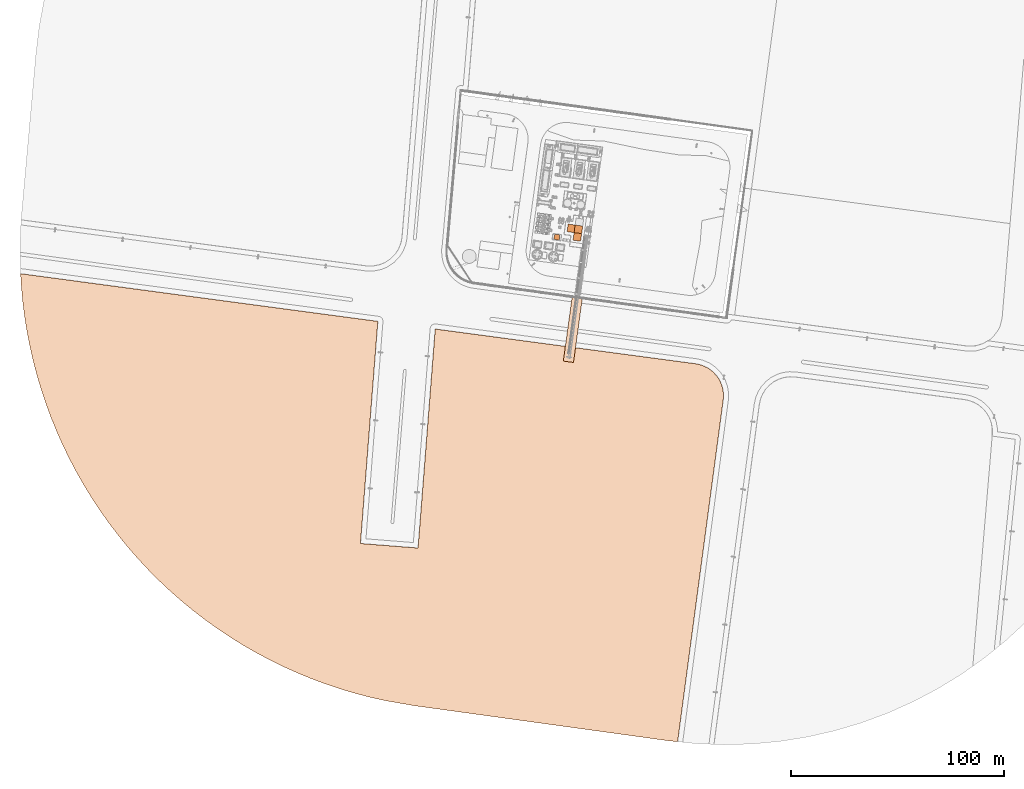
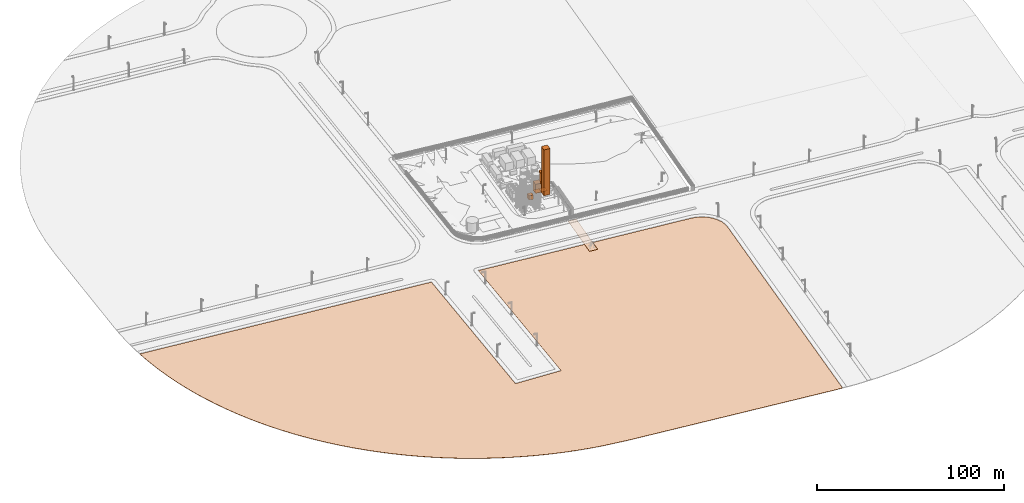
# Not in any storey, part 64 of 75: 6 proxies, 2 geographic elements.
"""IFC4 model written with IfcOpenShell, lengths in metres."""

from ifc_helpers import new_model, si_unit, direction, origin, origin_with_axes, place, context, subcontext, project, spatial, triangles, element, save


model = new_model("IFC4")

# Units and contexts
model_context = context("Model", 3, precision=1e-05, world=origin_with_axes(), true_north=direction((0.0, 1.0)))
body_context = subcontext(model_context, "Body", "Model", "MODEL_VIEW")
ifc_project = project(units=[si_unit("AREAUNIT", "SQUARE_METRE"), si_unit("VOLUMEUNIT", "CUBIC_METRE"), si_unit("LENGTHUNIT", "METRE")], contexts=[model_context])

# Site
site_placement = place(None, origin_with_axes())
site = spatial("IfcSite", under=ifc_project, at=site_placement, Name="Parcela industrial Jinhong")

# Proxies
proxy_1_placement = place(site_placement, origin_with_axes())
element("IfcBuildingElementProxy", 1, at=proxy_1_placement, inside=site, Name="Caseta de analizadores ANALYSIS-CABIN", ObjectType="Envolvente de equipo", PredefinedType="USERDEFINED", context=body_context, shape_type="Tessellation", body=[
    triangles([(44.160521, 39.569624, 1.3000000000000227), (46.977733, 41.705817, 1.3000000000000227), (46.637223, 39.229115, 1.3000000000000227), (44.501031, 42.046326, 1.3000000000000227), (44.160521, 39.569624, 4.100000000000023), (46.637223, 39.229115, 4.100000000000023), (46.977733, 41.705817, 4.100000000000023), (44.501031, 42.046326, 4.100000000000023)], [[1, 2, 3], [1, 4, 2], [7, 5, 6], [7, 8, 5], [1, 3, 6], [6, 5, 1], [3, 2, 7], [3, 7, 6], [2, 4, 8], [8, 7, 2], [4, 1, 5], [5, 8, 4]], closed=True),
])
proxy_2_placement = place(site_placement, origin_with_axes())
element("IfcBuildingElementProxy", 2, at=proxy_2_placement, inside=site, Name="Caja fría de la columna principal · aproximadamente 30 m, pendiente de confirmar", ObjectType="Envolvente conceptual de caja fría", PredefinedType="USERDEFINED", context=body_context, shape_type="Tessellation", body=[
    triangles([(53.149521, 39.206904, 1.2000000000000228), (57.19504, 42.274478, 1.2000000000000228), (56.706067, 38.717931, 1.2000000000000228), (53.638494, 42.763451, 1.2000000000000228), (53.149521, 39.206904, 31.200000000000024), (56.706067, 38.717931, 31.200000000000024), (57.19504, 42.274478, 31.200000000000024), (53.638494, 42.763451, 31.200000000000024)], [[1, 2, 3], [1, 4, 2], [7, 5, 6], [7, 8, 5], [1, 3, 6], [6, 5, 1], [3, 2, 7], [3, 7, 6], [2, 4, 8], [8, 7, 2], [4, 1, 5], [5, 8, 4]], closed=True),
])
proxy_3_placement = place(site_placement, origin_with_axes())
element("IfcBuildingElementProxy", 3, at=proxy_3_placement, inside=site, Name="Caja fría del intercambiador principal · solo ámbito en planta; altura desconocida", ObjectType="Marcador de equipo en planta", PredefinedType="USERDEFINED", context=body_context, shape_type="Tessellation", body=[
    triangles([(53.638494, 42.763451, 1.2000000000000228), (57.684941, 45.830895, 1.2000000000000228), (57.195969, 42.274351, 1.2000000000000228), (54.127466, 46.319995, 1.2000000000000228), (53.638494, 42.763451, 1.3000000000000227), (57.195969, 42.274351, 1.3000000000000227), (57.684941, 45.830895, 1.3000000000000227), (54.127466, 46.319995, 1.3000000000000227)], [[1, 2, 3], [1, 4, 2], [7, 5, 6], [7, 8, 5], [1, 3, 6], [5, 1, 6], [2, 7, 3], [3, 7, 6], [2, 4, 8], [7, 2, 8], [1, 5, 4], [5, 8, 4]], closed=True),
])
proxy_4_placement = place(site_placement, origin_with_axes())
element("IfcBuildingElementProxy", 4, at=proxy_4_placement, inside=site, Name="Caja fría del expansor oeste · solo ámbito en planta; altura desconocida", ObjectType="Marcador de equipo en planta", PredefinedType="USERDEFINED", context=body_context, shape_type="Tessellation", body=[
    triangles([(50.369247, 43.212924, 1.2000000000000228), (54.127466, 46.319995, 1.2000000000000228), (53.638494, 42.763451, 1.2000000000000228), (50.858219, 46.769468, 1.2000000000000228), (50.369247, 43.212924, 1.3000000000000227), (53.638494, 42.763451, 1.3000000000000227), (54.127466, 46.319995, 1.3000000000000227), (50.858219, 46.769468, 1.3000000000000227)], [[1, 2, 3], [1, 4, 2], [7, 5, 6], [7, 8, 5], [1, 3, 6], [5, 1, 6], [2, 7, 3], [3, 7, 6], [2, 4, 8], [7, 2, 8], [1, 5, 4], [5, 8, 4]], closed=True),
])
proxy_5_placement = place(None, origin())
element("IfcBuildingElementProxy", 5, at=proxy_5_placement, inside=site, Name="Ámbito del intercambiador principal · volumen provisional", context=body_context, shape_type="Tessellation", body=[
    triangles([(53.638494, 42.763451, 1.2), (57.684941, 45.830895, 1.2), (57.195969, 42.274351, 1.2), (54.127466, 46.319995, 1.2), (57.684941, 45.830895, 13.2), (53.638494, 42.763451, 13.2), (57.195969, 42.274351, 13.2), (54.127466, 46.319995, 13.2)], [[1, 2, 3], [1, 4, 2], [5, 6, 7], [6, 5, 8], [1, 3, 7], [6, 1, 7], [2, 5, 3], [5, 7, 3], [2, 4, 8], [5, 2, 8], [1, 6, 4], [4, 6, 8]], closed=True),
])
proxy_6_placement = place(None, origin())
element("IfcBuildingElementProxy", 6, at=proxy_6_placement, inside=site, Name="Ámbito del expansor oeste · volumen provisional", context=body_context, shape_type="Tessellation", body=[
    triangles([(50.369247, 43.212924, 1.2), (54.127466, 46.319995, 1.2), (53.638494, 42.763451, 1.2), (50.858219, 46.769468, 1.2), (54.127466, 46.319995, 7.2), (50.369247, 43.212924, 7.2), (53.638494, 42.763451, 7.2), (50.858219, 46.769468, 7.2)], [[1, 2, 3], [1, 4, 2], [5, 6, 7], [6, 5, 8], [1, 3, 7], [6, 1, 7], [2, 5, 3], [5, 7, 3], [2, 4, 8], [5, 2, 8], [1, 6, 4], [4, 6, 8]], closed=True),
])

# Geographic elements
geographic_element_1_placement = place(None, origin())
element("IfcGeographicElement", 7, at=geographic_element_1_placement, inside=site, Name="Suelo exterior · referencia provisional", ObjectType="Suelo exterior · referencia provisional", PredefinedType="USERDEFINED", context=body_context, shape_type="Tessellation", body=[
    triangles([(52.735666, 12.556918, 0.881832), (52.735666, 12.556918, 1.001832), (57.490934, 11.90314, 0.934164), (57.490934, 11.90314, 1.054164), (48.608301, -17.463529, 0.754793), (48.608301, -17.463529, 0.874793), (53.363569, -18.117308, 0.807125), (53.363569, -18.117308, 0.927125)], [[2, 4, 1], [5, 2, 1], [1, 4, 3], [3, 5, 1], [2, 8, 4], [6, 2, 5], [6, 8, 2], [4, 8, 3], [7, 5, 3], [3, 8, 7], [7, 6, 5], [8, 6, 7]], closed=True),
])
geographic_element_2_placement = place(None, origin())
element("IfcGeographicElement", 8, at=geographic_element_2_placement, inside=site, Name="Parcela catastral próxima · 9211601QD2091S", ObjectType="Parcela catastral próxima · 9211601QD2091S", PredefinedType="USERDEFINED", context=body_context, shape_type="Tessellation", body=[
    triangles([(-19.545183, -105.10472, -0.21409), (-35.445254, -176.545945, -0.585528), (-42.856508, -174.846703, -0.665274), (-46.467498, -102.994351, -0.514617), (-49.726157, -173.022185, -0.738526), (-56.059255, -171.121912, -0.805475), (-63.265821, -168.697139, -0.880958), (-69.921038, -166.201337, -0.949981), (-76.034841, -163.683283, -1.012787), (-46.508571, -102.94122, -0.514942), (-89.341247, -157.414261, -1.147379), (-95.175656, -154.303177, -1.205426), (-101.337632, -150.760439, -1.266046), (-113.701203, -142.791551, -1.385381), (-119.074434, -138.938297, -1.436203), (-124.715452, -134.613964, -1.488813), (-130.210444, -130.105527, -1.539272), (-135.920274, -125.084376, -1.590806), (-140.738489, -120.556244, -1.633516), (-145.760036, -115.525836, -1.677198), (-155.290743, -104.980971, -1.757444), (-160.09647, -99.088679, -1.796372), (-164.397812, -93.430111, -1.830188), (-38.350761, 1.141181, -0.144454), (-172.160886, -82.119882, -1.88829), (-175.894719, -76.071789, -1.914613), (-179.665315, -69.469007, -1.939874), (-182.976864, -63.179764, -1.960751), (-185.869216, -57.233885, -1.977777), (-188.967455, -50.290181, -1.994483), (-191.63995, -43.703929, -2.0073), (-196.176332, -30.757584, -2.024343), (-198.199224, -23.943713, -2.029166), (-200.112593, -16.584831, -2.031289), (-201.664842, -9.648589, -2.030434), (-202.986961, -2.664826, -2.026834), (-204.077504, 4.358824, -2.020495), (-204.883019, 10.921622, -2.012144), (-205.523416, 18.000522, -2.000538), (-205.839326, 23.488931, -1.989486), (-19.49471, -105.073081, -0.213432), (-11.448985, -2.448283, 0.151893), (110.717948, -18.748835, 1.497668), (113.254332, -19.308137, 1.525019), (116.11786, -20.560515, 1.554241), (123.649542, -32.413463, 1.608264), (120.679774, -24.560761, 1.595445), (122.137624, -26.919514, 1.60573), (123.232696, -29.87051, 1.610309), (123.569516, -35.560303, 1.598957), (102.171666, -195.916446, 0.927752), (97.784986, -195.456572, 0.879094), (-82.96588, -160.556814, -1.083264), (-107.795888, -146.74733, -1.328781), (-150.612555, -110.332186, -1.718522), (-168.509755, -87.632451, -1.861479), (-194.093271, -37.032935, -2.017399), (118.5303, -22.263174, 1.577132), (-21.328239, -179.013098, -0.431574), (-19.545183, -105.10472, -0.13409), (-35.445254, -176.545945, -0.505528), (-42.856508, -174.846703, -0.585274), (-46.467498, -102.994351, -0.434617), (-49.726157, -173.022185, -0.658526), (-56.059255, -171.121912, -0.725475), (-63.265821, -168.697139, -0.800958), (-69.921038, -166.201337, -0.869981), (-76.034841, -163.683283, -0.932787), (-46.508571, -102.94122, -0.434942), (-89.341247, -157.414261, -1.067379), (-95.175656, -154.303177, -1.125426), (-101.337632, -150.760439, -1.186046), (-113.701203, -142.791551, -1.305381), (-119.074434, -138.938297, -1.356203), (-124.715452, -134.613964, -1.408813), (-130.210444, -130.105527, -1.459272), (-135.920274, -125.084376, -1.510806), (-140.738489, -120.556244, -1.553516), (-145.760036, -115.525836, -1.597198), (-155.290743, -104.980971, -1.677444), (-160.09647, -99.088679, -1.716372), (-164.397812, -93.430111, -1.750188), (-38.350761, 1.141181, -0.064454), (-172.160886, -82.119882, -1.80829), (-175.894719, -76.071789, -1.834613), (-179.665315, -69.469007, -1.859874), (-182.976864, -63.179764, -1.880751), (-185.869216, -57.233885, -1.897777), (-188.967455, -50.290181, -1.914483), (-191.63995, -43.703929, -1.9273), (-196.176332, -30.757584, -1.944343), (-198.199224, -23.943713, -1.949166), (-200.112593, -16.584831, -1.951289), (-201.664842, -9.648589, -1.950434), (-202.986961, -2.664826, -1.946834), (-204.077504, 4.358824, -1.940495), (-204.883019, 10.921622, -1.932144), (-205.523416, 18.000522, -1.920538), (-205.839326, 23.488931, -1.909486), (-19.49471, -105.073081, -0.133432), (-11.448985, -2.448283, 0.231893), (110.717948, -18.748835, 1.577668), (113.254332, -19.308137, 1.605019), (116.11786, -20.560515, 1.634241), (123.649542, -32.413463, 1.688264), (120.679774, -24.560761, 1.675445), (122.137624, -26.919514, 1.68573), (123.232696, -29.87051, 1.690309), (123.569516, -35.560303, 1.678957), (102.171666, -195.916446, 1.007752), (97.784986, -195.456572, 0.959094), (-82.96588, -160.556814, -1.003264), (-107.795888, -146.74733, -1.248781), (-150.612555, -110.332186, -1.638522), (-168.509755, -87.632451, -1.781479), (-194.093271, -37.032935, -1.937399), (118.5303, -22.263174, 1.657132), (-21.328239, -179.013098, -0.351574)], [[1, 2, 3], [4, 3, 5], [4, 6, 7], [4, 8, 9], [10, 11, 12], [10, 12, 13], [10, 14, 15], [10, 15, 16], [10, 17, 18], [10, 19, 20], [10, 21, 22], [10, 22, 23], [24, 25, 26], [24, 26, 27], [24, 28, 29], [24, 30, 31], [24, 32, 33], [24, 33, 34], [24, 35, 36], [24, 37, 38], [24, 39, 40], [23, 24, 10], [41, 42, 43], [43, 44, 45], [46, 47, 48], [46, 48, 49], [43, 46, 50], [50, 51, 52], [4, 5, 6], [4, 7, 8], [4, 53, 11], [10, 54, 14], [10, 20, 55], [10, 55, 21], [24, 56, 25], [24, 29, 30], [24, 57, 32], [24, 36, 37], [24, 38, 39], [58, 43, 45], [47, 46, 58], [41, 50, 52], [4, 9, 53], [10, 13, 54], [24, 23, 56], [24, 27, 28], [35, 24, 34], [3, 4, 1], [50, 41, 43], [43, 58, 46], [10, 16, 17], [10, 18, 19], [24, 31, 57], [59, 41, 52], [11, 10, 4], [41, 59, 1], [2, 1, 59], [62, 61, 60], [64, 62, 63], [66, 65, 63], [68, 67, 63], [71, 70, 69], [72, 71, 69], [74, 73, 69], [75, 74, 69], [77, 76, 69], [79, 78, 69], [81, 80, 69], [82, 81, 69], [85, 84, 83], [86, 85, 83], [88, 87, 83], [90, 89, 83], [92, 91, 83], [93, 92, 83], [95, 94, 83], [97, 96, 83], [99, 98, 83], [69, 83, 82], [102, 101, 100], [104, 103, 102], [107, 106, 105], [108, 107, 105], [109, 105, 102], [111, 110, 109], [65, 64, 63], [67, 66, 63], [70, 112, 63], [73, 113, 69], [114, 79, 69], [80, 114, 69], [84, 115, 83], [89, 88, 83], [91, 116, 83], [96, 95, 83], [98, 97, 83], [104, 102, 117], [117, 105, 106], [111, 109, 100], [112, 68, 63], [113, 72, 69], [115, 82, 83], [87, 86, 83], [93, 83, 94], [60, 63, 62], [102, 100, 109], [105, 117, 102], [76, 75, 69], [78, 77, 69], [116, 90, 83], [111, 100, 118], [63, 69, 70], [60, 118, 100], [118, 60, 61], [61, 62, 2], [2, 62, 3], [63, 60, 4], [4, 60, 1], [62, 64, 3], [3, 64, 5], [64, 65, 5], [5, 65, 6], [65, 66, 6], [6, 66, 7], [66, 67, 7], [7, 67, 8], [67, 68, 8], [8, 68, 9], [69, 63, 10], [10, 63, 4], [70, 71, 11], [11, 71, 12], [71, 72, 12], [12, 72, 13], [73, 74, 14], [14, 74, 15], [74, 75, 15], [15, 75, 16], [75, 76, 16], [16, 76, 17], [76, 77, 17], [17, 77, 18], [77, 78, 18], [18, 78, 19], [78, 79, 19], [19, 79, 20], [80, 81, 21], [21, 81, 22], [81, 82, 22], [22, 82, 23], [83, 69, 24], [24, 69, 10], [84, 85, 25], [25, 85, 26], [85, 86, 26], [26, 86, 27], [86, 87, 27], [27, 87, 28], [87, 88, 28], [28, 88, 29], [88, 89, 29], [29, 89, 30], [89, 90, 30], [30, 90, 31], [91, 92, 32], [32, 92, 33], [92, 93, 33], [33, 93, 34], [93, 94, 34], [34, 94, 35], [94, 95, 35], [35, 95, 36], [95, 96, 36], [36, 96, 37], [96, 97, 37], [37, 97, 38], [97, 98, 38], [38, 98, 39], [99, 83, 40], [40, 83, 24], [98, 99, 39], [39, 99, 40], [60, 100, 1], [1, 100, 41], [100, 101, 41], [41, 101, 42], [101, 102, 42], [42, 102, 43], [102, 103, 43], [43, 103, 44], [103, 104, 44], [44, 104, 45], [106, 107, 47], [47, 107, 48], [108, 105, 49], [49, 105, 46], [107, 108, 48], [48, 108, 49], [105, 109, 46], [46, 109, 50], [109, 110, 50], [50, 110, 51], [110, 111, 51], [51, 111, 52], [68, 112, 9], [9, 112, 53], [112, 70, 53], [53, 70, 11], [72, 113, 13], [13, 113, 54], [113, 73, 54], [54, 73, 14], [79, 114, 20], [20, 114, 55], [114, 80, 55], [55, 80, 21], [82, 115, 23], [23, 115, 56], [115, 84, 56], [56, 84, 25], [90, 116, 31], [31, 116, 57], [116, 91, 57], [57, 91, 32], [104, 117, 45], [45, 117, 58], [117, 106, 58], [58, 106, 47], [118, 61, 59], [59, 61, 2], [111, 118, 52], [52, 118, 59]], closed=True),
])

save(model, "model.ifc")
